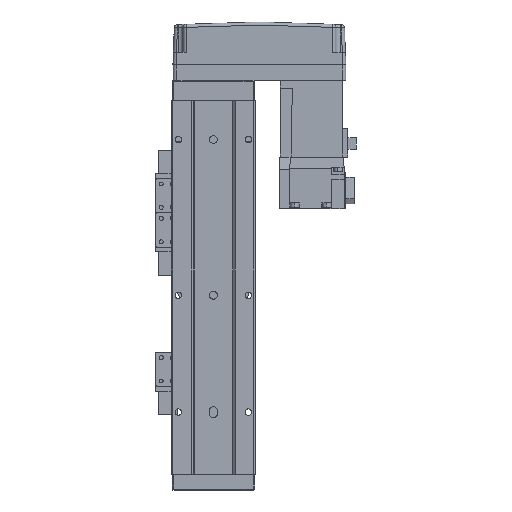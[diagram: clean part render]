
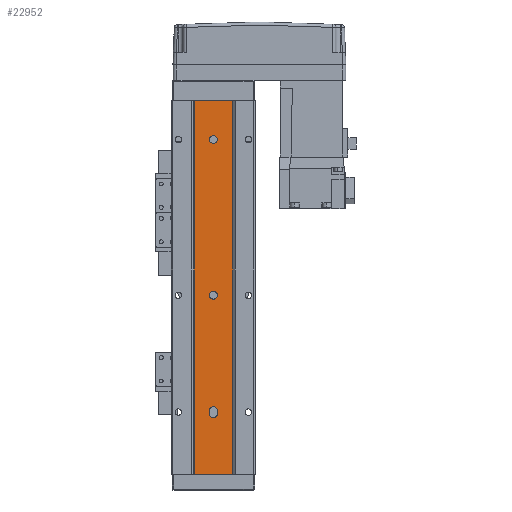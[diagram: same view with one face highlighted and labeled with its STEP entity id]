
A CAD part, front view. The second image highlights one B-rep face of the part: STEP entity #22952.
In plain terms, the highlighted planar face has unit normal (0, -1, 0).
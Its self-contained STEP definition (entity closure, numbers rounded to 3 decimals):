
#684 = CARTESIAN_POINT ( 'NONE',  ( 12.293, 1.5, -240. ) ) ;
#1075 = CARTESIAN_POINT ( 'NONE',  ( -2.5, 1.5, -25. ) ) ;
#1520 = VERTEX_POINT ( 'NONE', #18929 ) ;
#2031 = CARTESIAN_POINT ( 'NONE',  ( 0., 1.5, -25. ) ) ;
#2151 = EDGE_CURVE ( 'NONE', #20943, #6000, #8831, .T. ) ;
#2239 = CARTESIAN_POINT ( 'NONE',  ( 0., 1.5, -201. ) ) ;
#2554 = DIRECTION ( 'NONE',  ( 1., 0., 0. ) ) ;
#2749 = EDGE_CURVE ( 'NONE', #6000, #7707, #27599, .T. ) ;
#3503 = LINE ( 'NONE', #11529, #13970 ) ;
#4117 = EDGE_CURVE ( 'NONE', #14965, #14398, #25162, .T. ) ;
#4378 = CIRCLE ( 'NONE', #16546, 2.5 ) ;
#4528 = CARTESIAN_POINT ( 'NONE',  ( -2.5, 1.5, -125. ) ) ;
#5091 = DIRECTION ( 'NONE',  ( 0., 0., 1. ) ) ;
#5111 = VERTEX_POINT ( 'NONE', #14252 ) ;
#5136 = AXIS2_PLACEMENT_3D ( 'NONE', #2031, #5196, #10574 ) ;
#5196 = DIRECTION ( 'NONE',  ( 0., -1., 0. ) ) ;
#5577 = AXIS2_PLACEMENT_3D ( 'NONE', #28668, #17527, #9114 ) ;
#6000 = VERTEX_POINT ( 'NONE', #12850 ) ;
#6497 = CIRCLE ( 'NONE', #5136, 2.5 ) ;
#7539 = EDGE_CURVE ( 'NONE', #14398, #27002, #35614, .T. ) ;
#7707 = VERTEX_POINT ( 'NONE', #32628 ) ;
#8079 = DIRECTION ( 'NONE',  ( 0., -1., 0. ) ) ;
#8351 = CARTESIAN_POINT ( 'NONE',  ( 0., 1.5, -125. ) ) ;
#8570 = AXIS2_PLACEMENT_3D ( 'NONE', #14028, #33569, #17065 ) ;
#8595 = EDGE_LOOP ( 'NONE', ( #16841, #22478, #25603, #25575 ) ) ;
#8685 = EDGE_CURVE ( 'NONE', #20943, #1520, #3503, .T. ) ;
#8831 = LINE ( 'NONE', #35875, #25426 ) ;
#8874 = CARTESIAN_POINT ( 'NONE',  ( 2.5, 1.5, -25. ) ) ;
#9114 = DIRECTION ( 'NONE',  ( 1., 0., 0. ) ) ;
#9218 = DIRECTION ( 'NONE',  ( 0., 0., 1. ) ) ;
#9389 = VERTEX_POINT ( 'NONE', #4528 ) ;
#10574 = DIRECTION ( 'NONE',  ( 1., 0., 0. ) ) ;
#11292 = CIRCLE ( 'NONE', #12651, 2.5 ) ;
#11529 = CARTESIAN_POINT ( 'NONE',  ( 12.293, 1.5, -240. ) ) ;
#12511 = ORIENTED_EDGE ( 'NONE', *, *, #27295, .F. ) ;
#12651 = AXIS2_PLACEMENT_3D ( 'NONE', #8351, #16651, #19577 ) ;
#12701 = EDGE_CURVE ( 'NONE', #20937, #30263, #6497, .T. ) ;
#12807 = EDGE_CURVE ( 'NONE', #9389, #21278, #11292, .T. ) ;
#12850 = CARTESIAN_POINT ( 'NONE',  ( -12.293, 1.5, 0. ) ) ;
#13546 = CARTESIAN_POINT ( 'NONE',  ( 0., 1.5, -25. ) ) ;
#13652 = CARTESIAN_POINT ( 'NONE',  ( 0., 1.5, -125. ) ) ;
#13775 = DIRECTION ( 'NONE',  ( 0., -1., 0. ) ) ;
#13970 = VECTOR ( 'NONE', #17131, 1000. ) ;
#14028 = CARTESIAN_POINT ( 'NONE',  ( 0., 1.5, -199. ) ) ;
#14252 = CARTESIAN_POINT ( 'NONE',  ( -2.5, 1.5, -199. ) ) ;
#14398 = VERTEX_POINT ( 'NONE', #27208 ) ;
#14819 = VECTOR ( 'NONE', #21728, 1000. ) ;
#14965 = VERTEX_POINT ( 'NONE', #20115 ) ;
#15157 = FACE_BOUND ( 'NONE', #27086, .T. ) ;
#15217 = CIRCLE ( 'NONE', #8570, 2.5 ) ;
#15330 = ORIENTED_EDGE ( 'NONE', *, *, #24153, .F. ) ;
#15654 = LINE ( 'NONE', #684, #16494 ) ;
#15664 = DIRECTION ( 'NONE',  ( 0., 0., 1. ) ) ;
#15717 = LINE ( 'NONE', #30175, #14819 ) ;
#15918 = DIRECTION ( 'NONE',  ( 1., 0., 0. ) ) ;
#16063 = CARTESIAN_POINT ( 'NONE',  ( 2.5, 1.5, -125. ) ) ;
#16385 = ORIENTED_EDGE ( 'NONE', *, *, #12701, .F. ) ;
#16494 = VECTOR ( 'NONE', #9218, 1000. ) ;
#16546 = AXIS2_PLACEMENT_3D ( 'NONE', #13652, #24998, #16580 ) ;
#16580 = DIRECTION ( 'NONE',  ( 1., 0., 0. ) ) ;
#16651 = DIRECTION ( 'NONE',  ( 0., -1., 0. ) ) ;
#16841 = ORIENTED_EDGE ( 'NONE', *, *, #2749, .F. ) ;
#17065 = DIRECTION ( 'NONE',  ( 1., 0., 0. ) ) ;
#17131 = DIRECTION ( 'NONE',  ( 1., 0., 0. ) ) ;
#17527 = DIRECTION ( 'NONE',  ( 0., -1., 0. ) ) ;
#18066 = AXIS2_PLACEMENT_3D ( 'NONE', #2239, #8079, #15918 ) ;
#18613 = CIRCLE ( 'NONE', #29301, 2.5 ) ;
#18929 = CARTESIAN_POINT ( 'NONE',  ( 12.293, 1.5, -240. ) ) ;
#19258 = ORIENTED_EDGE ( 'NONE', *, *, #34333, .F. ) ;
#19577 = DIRECTION ( 'NONE',  ( 1., 0., 0. ) ) ;
#20115 = CARTESIAN_POINT ( 'NONE',  ( -2.5, 1.5, -201. ) ) ;
#20752 = VECTOR ( 'NONE', #15664, 1000. ) ;
#20937 = VERTEX_POINT ( 'NONE', #8874 ) ;
#20943 = VERTEX_POINT ( 'NONE', #28446 ) ;
#21278 = VERTEX_POINT ( 'NONE', #16063 ) ;
#21728 = DIRECTION ( 'NONE',  ( 0., 0., -1. ) ) ;
#22321 = VECTOR ( 'NONE', #35833, 1000. ) ;
#22478 = ORIENTED_EDGE ( 'NONE', *, *, #2151, .F. ) ;
#22701 = EDGE_CURVE ( 'NONE', #1520, #7707, #15654, .T. ) ;
#22952 = ADVANCED_FACE ( 'NONE', ( #29192, #15157, #31768, #24721 ), #31115, .T. ) ;
#23517 = ORIENTED_EDGE ( 'NONE', *, *, #35853, .F. ) ;
#24153 = EDGE_CURVE ( 'NONE', #5111, #14965, #15717, .T. ) ;
#24721 = FACE_OUTER_BOUND ( 'NONE', #8595, .T. ) ;
#24998 = DIRECTION ( 'NONE',  ( 0., -1., 0. ) ) ;
#25162 = CIRCLE ( 'NONE', #18066, 2.5 ) ;
#25426 = VECTOR ( 'NONE', #5091, 1000. ) ;
#25575 = ORIENTED_EDGE ( 'NONE', *, *, #22701, .T. ) ;
#25603 = ORIENTED_EDGE ( 'NONE', *, *, #8685, .T. ) ;
#27002 = VERTEX_POINT ( 'NONE', #35072 ) ;
#27086 = EDGE_LOOP ( 'NONE', ( #19258, #27153 ) ) ;
#27153 = ORIENTED_EDGE ( 'NONE', *, *, #12807, .F. ) ;
#27208 = CARTESIAN_POINT ( 'NONE',  ( 2.5, 1.5, -201. ) ) ;
#27295 = EDGE_CURVE ( 'NONE', #27002, #5111, #15217, .T. ) ;
#27474 = EDGE_LOOP ( 'NONE', ( #16385, #23517 ) ) ;
#27599 = LINE ( 'NONE', #35710, #22321 ) ;
#28446 = CARTESIAN_POINT ( 'NONE',  ( -12.293, 1.5, -240. ) ) ;
#28615 = CARTESIAN_POINT ( 'NONE',  ( 2.5, 1.5, -240. ) ) ;
#28664 = ORIENTED_EDGE ( 'NONE', *, *, #4117, .F. ) ;
#28668 = CARTESIAN_POINT ( 'NONE',  ( 12.293, 1.5, -240. ) ) ;
#29192 = FACE_BOUND ( 'NONE', #33187, .T. ) ;
#29301 = AXIS2_PLACEMENT_3D ( 'NONE', #13546, #13775, #2554 ) ;
#30175 = CARTESIAN_POINT ( 'NONE',  ( -2.5, 1.5, -240. ) ) ;
#30263 = VERTEX_POINT ( 'NONE', #1075 ) ;
#31115 = PLANE ( 'NONE',  #5577 ) ;
#31768 = FACE_BOUND ( 'NONE', #27474, .T. ) ;
#32628 = CARTESIAN_POINT ( 'NONE',  ( 12.293, 1.5, 0. ) ) ;
#33187 = EDGE_LOOP ( 'NONE', ( #28664, #15330, #12511, #33934 ) ) ;
#33569 = DIRECTION ( 'NONE',  ( 0., -1., 0. ) ) ;
#33934 = ORIENTED_EDGE ( 'NONE', *, *, #7539, .F. ) ;
#34333 = EDGE_CURVE ( 'NONE', #21278, #9389, #4378, .T. ) ;
#35072 = CARTESIAN_POINT ( 'NONE',  ( 2.5, 1.5, -199. ) ) ;
#35614 = LINE ( 'NONE', #28615, #20752 ) ;
#35710 = CARTESIAN_POINT ( 'NONE',  ( 12.293, 1.5, 0. ) ) ;
#35833 = DIRECTION ( 'NONE',  ( 1., 0., 0. ) ) ;
#35853 = EDGE_CURVE ( 'NONE', #30263, #20937, #18613, .T. ) ;
#35875 = CARTESIAN_POINT ( 'NONE',  ( -12.293, 1.5, -240. ) ) ;
